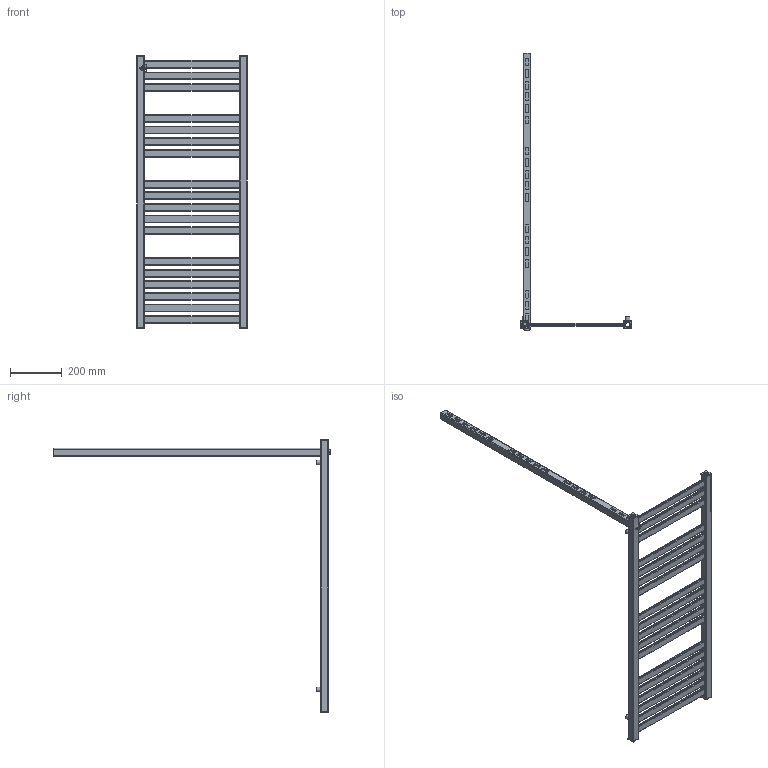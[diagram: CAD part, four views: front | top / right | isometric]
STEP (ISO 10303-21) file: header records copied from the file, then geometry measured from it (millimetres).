
FILE_DESCRIPTION( ( 'Unknown' ), '1' );
FILE_NAME( 'D:/Alplast sp. j/Witryna zespoBu - Projekty/Archiwum/Grzejniki Archiwum/Projekty/STANDARD/AK-EP/AK4-400EP.stp', 'Unknown', ( 'Unknown' ), ( 'Unknown' ), 'PSStep 10.1', 'Unknown', ' ' );
FILE_SCHEMA( ( 'AUTOMOTIVE_DESIGN { 1 0 10303 214 1 1 1 1 }' ) );
Length unit declared in the file: millimetre
Products named in the file (5): Assem1; zaslepka kwadrat otwor; AK4-EPEL; kana³  poziomy 30x10  400; mocowanie
Bounding box: 430 x 1074 x 1060.13 mm (x, y, z)
Volume: 1275648.5 mm3; surface area: 1719477.9 mm2
Topology: 32 solids, 32 shells, 911 faces, 2511 edges, 1674 vertices
Faces by surface type: plane 506, cylinder 395, torus 10
Full cylindrical faces by diameter (mm): 16 x5, 18 x5, 18.631 x5, 23 x5
Entity records: 8645 total; most frequent: DIRECTION 1241, CARTESIAN_POINT 1199, ORIENTED_EDGE 1154, EDGE_CURVE 577, AXIS2_PLACEMENT_3D 430, VERTEX_POINT 388, LINE 381, VECTOR 381
